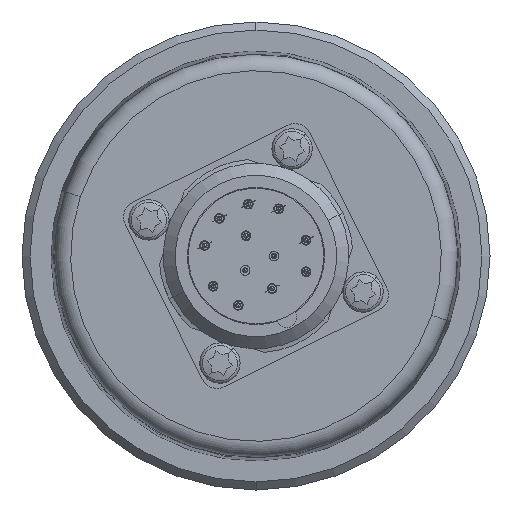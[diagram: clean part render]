
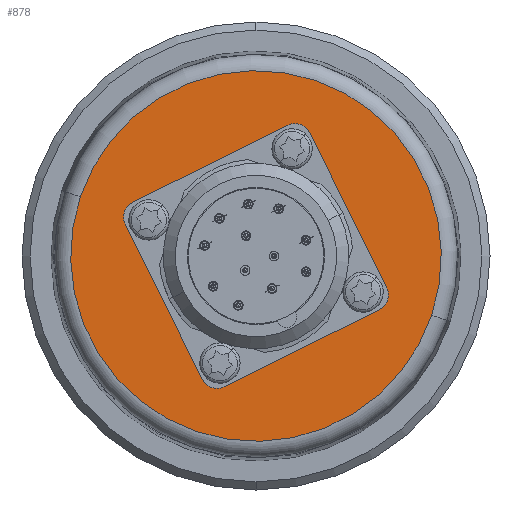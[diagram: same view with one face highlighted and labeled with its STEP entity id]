
A CAD part, left-side view. The second image highlights one B-rep face of the part: STEP entity #878.
In plain terms, the highlighted planar face has unit normal (-1, 0, 0).
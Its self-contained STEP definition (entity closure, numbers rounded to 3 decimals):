
#561 = DIRECTION ( 'NONE',  ( 0., 0.948, 0.319 ) ) ;
#562 = DIRECTION ( 'NONE',  ( 1., 0., 0. ) ) ;
#563 = AXIS2_PLACEMENT_3D ( 'NONE', #570, #562, #561 ) ;
#564 = CIRCLE ( 'NONE', #563, 1.389 ) ;
#570 = CARTESIAN_POINT ( 'NONE',  ( -21., 13.268, 4.469 ) ) ;
#572 = CARTESIAN_POINT ( 'NONE',  ( -21., 11.952, 4.026 ) ) ;
#573 = CARTESIAN_POINT ( 'NONE',  ( -21., 14.584, 4.912 ) ) ;
#583 = CARTESIAN_POINT ( 'NONE',  ( -21., -21.77, -7.332 ) ) ;
#618 = ORIENTED_EDGE ( 'NONE', *, *, #867, .F. ) ;
#659 = DIRECTION ( 'NONE',  ( 0., 0.948, 0.319 ) ) ;
#660 = DIRECTION ( 'NONE',  ( -1., 0., 0. ) ) ;
#661 = CARTESIAN_POINT ( 'NONE',  ( -21., 0., 0. ) ) ;
#662 = AXIS2_PLACEMENT_3D ( 'NONE', #661, #660, #659 ) ;
#663 = CIRCLE ( 'NONE', #662, 22.972 ) ;
#694 = CARTESIAN_POINT ( 'NONE',  ( -21., 21.77, 7.332 ) ) ;
#793 = ORIENTED_EDGE ( 'NONE', *, *, #801, .T. ) ;
#794 = VERTEX_POINT ( 'NONE', #3360 ) ;
#795 = ORIENTED_EDGE ( 'NONE', *, *, #802, .T. ) ;
#796 = EDGE_CURVE ( 'NONE', #800, #799, #3359, .T. ) ;
#797 = VERTEX_POINT ( 'NONE', #3354 ) ;
#798 = EDGE_CURVE ( 'NONE', #824, #794, #3353, .T. ) ;
#799 = VERTEX_POINT ( 'NONE', #3348 ) ;
#800 = VERTEX_POINT ( 'NONE', #3347 ) ;
#801 = EDGE_CURVE ( 'NONE', #797, #825, #3401, .T. ) ;
#802 = EDGE_CURVE ( 'NONE', #799, #800, #3396, .T. ) ;
#804 = EDGE_LOOP ( 'NONE', ( #821, #793 ) ) ;
#805 = EDGE_LOOP ( 'NONE', ( #806, #795 ) ) ;
#806 = ORIENTED_EDGE ( 'NONE', *, *, #796, .T. ) ;
#807 = EDGE_LOOP ( 'NONE', ( #817, #827 ) ) ;
#811 = ORIENTED_EDGE ( 'NONE', *, *, #823, .T. ) ;
#812 = VERTEX_POINT ( 'NONE', #3391 ) ;
#813 = ORIENTED_EDGE ( 'NONE', *, *, #13486, .T. ) ;
#814 = EDGE_LOOP ( 'NONE', ( #828, #618 ) ) ;
#815 = EDGE_CURVE ( 'NONE', #816, #812, #3390, .T. ) ;
#816 = VERTEX_POINT ( 'NONE', #3385 ) ;
#817 = ORIENTED_EDGE ( 'NONE', *, *, #815, .T. ) ;
#818 = EDGE_LOOP ( 'NONE', ( #811, #813 ) ) ;
#819 = EDGE_CURVE ( 'NONE', #825, #797, #3384, .T. ) ;
#820 = EDGE_CURVE ( 'NONE', #812, #816, #3379, .T. ) ;
#821 = ORIENTED_EDGE ( 'NONE', *, *, #819, .T. ) ;
#823 = EDGE_CURVE ( 'NONE', #13502, #13478, #3374, .T. ) ;
#824 = VERTEX_POINT ( 'NONE', #3427 ) ;
#825 = VERTEX_POINT ( 'NONE', #3426 ) ;
#827 = ORIENTED_EDGE ( 'NONE', *, *, #820, .T. ) ;
#828 = ORIENTED_EDGE ( 'NONE', *, *, #798, .F. ) ;
#830 = ORIENTED_EDGE ( 'NONE', *, *, #831, .T. ) ;
#831 = EDGE_CURVE ( 'NONE', #13459, #13458, #3408, .T. ) ;
#867 = EDGE_CURVE ( 'NONE', #794, #824, #3524, .T. ) ;
#878 = ADVANCED_FACE ( 'NONE', ( #3564, #3563, #3562, #3561, #3560, #3559 ), #3600, .F. ) ;
#882 = EDGE_LOOP ( 'NONE', ( #13462, #830 ) ) ;
#3347 = CARTESIAN_POINT ( 'NONE',  ( -21., -3.153, 13.712 ) ) ;
#3348 = CARTESIAN_POINT ( 'NONE',  ( -21., -5.785, 12.825 ) ) ;
#3349 = DIRECTION ( 'NONE',  ( 0., -0.948, -0.319 ) ) ;
#3350 = DIRECTION ( 'NONE',  ( -1., 0., 0. ) ) ;
#3351 = CARTESIAN_POINT ( 'NONE',  ( -21., 0., 0. ) ) ;
#3352 = AXIS2_PLACEMENT_3D ( 'NONE', #3351, #3350, #3349 ) ;
#3353 = CIRCLE ( 'NONE', #3352, 11.5 ) ;
#3354 = CARTESIAN_POINT ( 'NONE',  ( -21., 3.153, -13.712 ) ) ;
#3355 = DIRECTION ( 'NONE',  ( 0., 0.948, 0.319 ) ) ;
#3356 = DIRECTION ( 'NONE',  ( 1., 0., 0. ) ) ;
#3357 = CARTESIAN_POINT ( 'NONE',  ( -21., -4.469, 13.268 ) ) ;
#3358 = AXIS2_PLACEMENT_3D ( 'NONE', #3357, #3356, #3355 ) ;
#3359 = CIRCLE ( 'NONE', #3358, 1.389 ) ;
#3360 = CARTESIAN_POINT ( 'NONE',  ( -21., 10.898, 3.671 ) ) ;
#3373 = CARTESIAN_POINT ( 'NONE',  ( -21., 0., 0. ) ) ;
#3374 = CIRCLE ( 'NONE', #3430, 22.972 ) ;
#3375 = DIRECTION ( 'NONE',  ( 0., 0.948, 0.319 ) ) ;
#3376 = DIRECTION ( 'NONE',  ( 1., 0., 0. ) ) ;
#3377 = CARTESIAN_POINT ( 'NONE',  ( -21., -13.268, -4.469 ) ) ;
#3378 = AXIS2_PLACEMENT_3D ( 'NONE', #3377, #3376, #3375 ) ;
#3379 = CIRCLE ( 'NONE', #3378, 1.389 ) ;
#3380 = DIRECTION ( 'NONE',  ( 0., 0.948, 0.319 ) ) ;
#3381 = DIRECTION ( 'NONE',  ( 1., 0., 0. ) ) ;
#3382 = CARTESIAN_POINT ( 'NONE',  ( -21., 4.469, -13.268 ) ) ;
#3383 = AXIS2_PLACEMENT_3D ( 'NONE', #3382, #3381, #3380 ) ;
#3384 = CIRCLE ( 'NONE', #3383, 1.389 ) ;
#3385 = CARTESIAN_POINT ( 'NONE',  ( -21., -11.952, -4.026 ) ) ;
#3386 = DIRECTION ( 'NONE',  ( 0., 0.948, 0.319 ) ) ;
#3387 = DIRECTION ( 'NONE',  ( 1., 0., 0. ) ) ;
#3388 = CARTESIAN_POINT ( 'NONE',  ( -21., -13.268, -4.469 ) ) ;
#3389 = AXIS2_PLACEMENT_3D ( 'NONE', #3388, #3387, #3386 ) ;
#3390 = CIRCLE ( 'NONE', #3389, 1.389 ) ;
#3391 = CARTESIAN_POINT ( 'NONE',  ( -21., -14.584, -4.912 ) ) ;
#3393 = DIRECTION ( 'NONE',  ( 0., 0.948, 0.319 ) ) ;
#3394 = DIRECTION ( 'NONE',  ( 1., 0., 0. ) ) ;
#3395 = AXIS2_PLACEMENT_3D ( 'NONE', #3402, #3394, #3393 ) ;
#3396 = CIRCLE ( 'NONE', #3395, 1.389 ) ;
#3397 = DIRECTION ( 'NONE',  ( 0., 0.948, 0.319 ) ) ;
#3398 = DIRECTION ( 'NONE',  ( 1., 0., 0. ) ) ;
#3399 = CARTESIAN_POINT ( 'NONE',  ( -21., 4.469, -13.268 ) ) ;
#3400 = AXIS2_PLACEMENT_3D ( 'NONE', #3399, #3398, #3397 ) ;
#3401 = CIRCLE ( 'NONE', #3400, 1.389 ) ;
#3402 = CARTESIAN_POINT ( 'NONE',  ( -21., -4.469, 13.268 ) ) ;
#3403 = AXIS2_PLACEMENT_3D ( 'NONE', #3458, #3457, #3456 ) ;
#3408 = CIRCLE ( 'NONE', #3403, 1.389 ) ;
#3426 = CARTESIAN_POINT ( 'NONE',  ( -21., 5.785, -12.825 ) ) ;
#3427 = CARTESIAN_POINT ( 'NONE',  ( -21., -10.898, -3.671 ) ) ;
#3428 = DIRECTION ( 'NONE',  ( 0., 0.948, 0.319 ) ) ;
#3429 = DIRECTION ( 'NONE',  ( -1., 0., 0. ) ) ;
#3430 = AXIS2_PLACEMENT_3D ( 'NONE', #3373, #3429, #3428 ) ;
#3456 = DIRECTION ( 'NONE',  ( 0., 0.948, 0.319 ) ) ;
#3457 = DIRECTION ( 'NONE',  ( 1., 0., 0. ) ) ;
#3458 = CARTESIAN_POINT ( 'NONE',  ( -21., 13.268, 4.469 ) ) ;
#3520 = DIRECTION ( 'NONE',  ( 0., -0.948, -0.319 ) ) ;
#3521 = DIRECTION ( 'NONE',  ( -1., 0., 0. ) ) ;
#3522 = CARTESIAN_POINT ( 'NONE',  ( -21., 0., 0. ) ) ;
#3523 = AXIS2_PLACEMENT_3D ( 'NONE', #3522, #3521, #3520 ) ;
#3524 = CIRCLE ( 'NONE', #3523, 11.5 ) ;
#3559 = FACE_BOUND ( 'NONE', #814, .T. ) ;
#3560 = FACE_OUTER_BOUND ( 'NONE', #818, .T. ) ;
#3561 = FACE_BOUND ( 'NONE', #807, .T. ) ;
#3562 = FACE_BOUND ( 'NONE', #805, .T. ) ;
#3563 = FACE_BOUND ( 'NONE', #804, .T. ) ;
#3564 = FACE_BOUND ( 'NONE', #882, .T. ) ;
#3596 = DIRECTION ( 'NONE',  ( 0., 0.948, 0.319 ) ) ;
#3597 = DIRECTION ( 'NONE',  ( 1., 0., 0. ) ) ;
#3598 = CARTESIAN_POINT ( 'NONE',  ( -21., 0., 0. ) ) ;
#3599 = AXIS2_PLACEMENT_3D ( 'NONE', #3598, #3597, #3596 ) ;
#3600 = PLANE ( 'NONE',  #3599 ) ;
#13458 = VERTEX_POINT ( 'NONE', #573 ) ;
#13459 = VERTEX_POINT ( 'NONE', #572 ) ;
#13462 = ORIENTED_EDGE ( 'NONE', *, *, #13463, .T. ) ;
#13463 = EDGE_CURVE ( 'NONE', #13458, #13459, #564, .T. ) ;
#13478 = VERTEX_POINT ( 'NONE', #583 ) ;
#13486 = EDGE_CURVE ( 'NONE', #13478, #13502, #663, .T. ) ;
#13502 = VERTEX_POINT ( 'NONE', #694 ) ;
